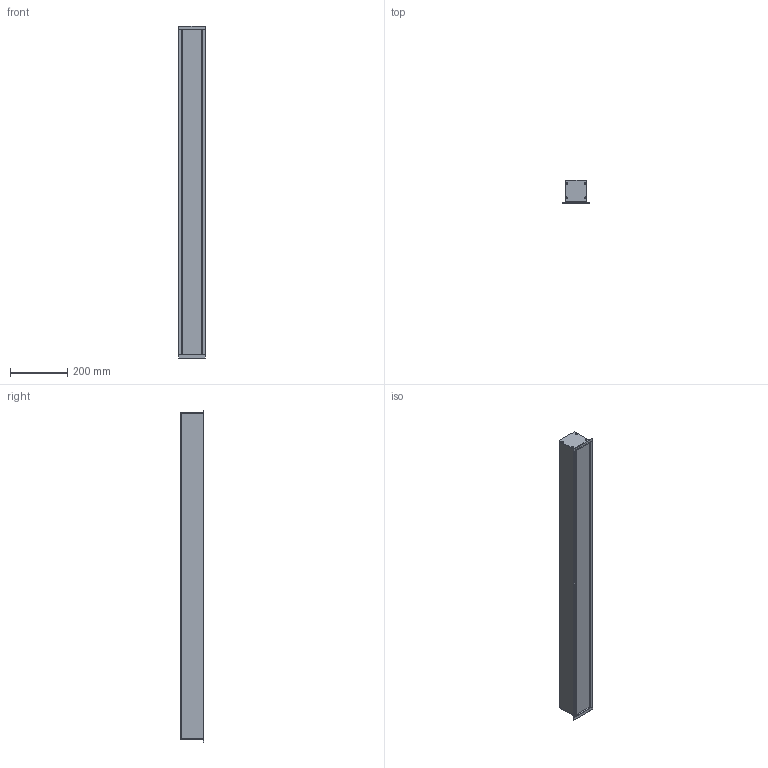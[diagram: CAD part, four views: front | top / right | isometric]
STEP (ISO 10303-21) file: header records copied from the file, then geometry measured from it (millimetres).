
FILE_DESCRIPTION (( 'STEP AP214' ), '1' );
FILE_NAME ('Swerve recessed 8B straight.STEP', '2019-04-02T23:01:54', ( 'admin' ), ( 'Hewlett-Packard Company' ), 'SwSTEP 2.0', 'SolidWorks 2017', '' );
FILE_SCHEMA (( 'AUTOMOTIVE_DESIGN' ));
Length unit declared in the file: millimetre
Products named in the file (3): Swerve recessed endcap; Swerve recessed 3D solid model_8B straight; Swerve recessed 8B straight
Assembly tree (3 placements, depth 2):
  Swerve recessed 8B straight
    Swerve recessed 3D solid model_8B straight
    Swerve recessed endcap  x2
Bounding box: 92 x 81.51 x 1160 mm (x, y, z)
Volume: 6688256.2 mm3; surface area: 442013.1 mm2
Topology: 3 solids, 3 shells, 101 faces, 269 edges, 174 vertices
Faces by surface type: cylinder 43, plane 42, cone 16
Entity records: 2332 total; most frequent: DIRECTION 407, CARTESIAN_POINT 384, ORIENTED_EDGE 374, EDGE_CURVE 187, AXIS2_PLACEMENT_3D 145, VERTEX_POINT 122, LINE 117, VECTOR 117
